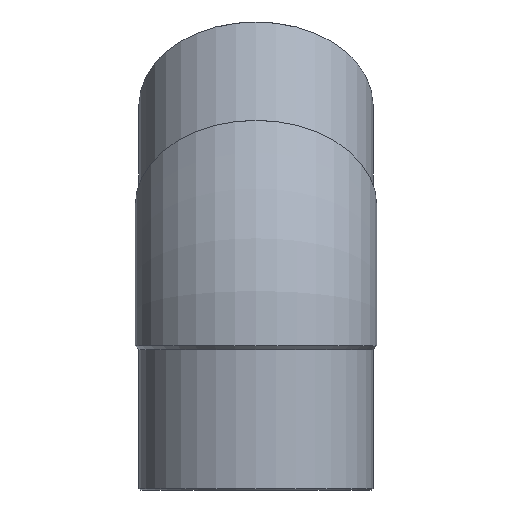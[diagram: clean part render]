
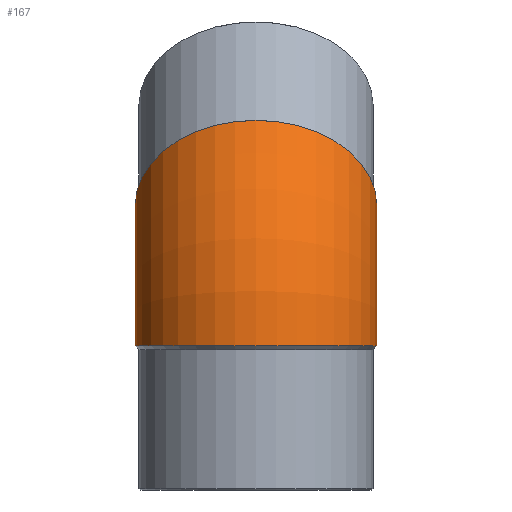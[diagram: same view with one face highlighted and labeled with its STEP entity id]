
A CAD part, left-side view. The second image highlights one B-rep face of the part: STEP entity #167.
In plain terms, the highlighted toroidal (fillet/blend) face has major radius 152.095 mm and minor radius 93 mm.
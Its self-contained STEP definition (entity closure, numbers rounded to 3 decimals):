
#20=TOROIDAL_SURFACE('',#201,152.095,93.);
#49=ORIENTED_EDGE('',*,*,#68,.F.);
#50=ORIENTED_EDGE('',*,*,#80,.T.);
#68=EDGE_CURVE('',#85,#85,#101,.F.);
#80=EDGE_CURVE('',#96,#96,#108,.F.);
#85=VERTEX_POINT('',#269);
#96=VERTEX_POINT('',#313);
#101=CIRCLE('',#189,93.);
#108=CIRCLE('',#202,93.);
#122=EDGE_LOOP('',(#49));
#123=EDGE_LOOP('',(#50));
#145=FACE_BOUND('',#122,.T.);
#146=FACE_BOUND('',#123,.T.);
#167=ADVANCED_FACE('',(#145,#146),#20,.T.);
#189=AXIS2_PLACEMENT_3D('',#268,#218,#219);
#201=AXIS2_PLACEMENT_3D('',#311,#242,#243);
#202=AXIS2_PLACEMENT_3D('',#312,#244,#245);
#218=DIRECTION('',(-0.707,0.,-0.707));
#219=DIRECTION('',(0.707,0.,-0.707));
#242=DIRECTION('',(0.,1.,0.));
#243=DIRECTION('',(0.,0.,1.));
#244=DIRECTION('',(0.,0.,-1.));
#245=DIRECTION('',(1.,0.,0.));
#268=CARTESIAN_POINT('',(44.548,0.,44.548));
#269=CARTESIAN_POINT('',(110.309,0.,-21.213));
#311=CARTESIAN_POINT('',(152.095,0.,-63.));
#312=CARTESIAN_POINT('',(0.,0.,-63.));
#313=CARTESIAN_POINT('',(93.,0.,-63.));
